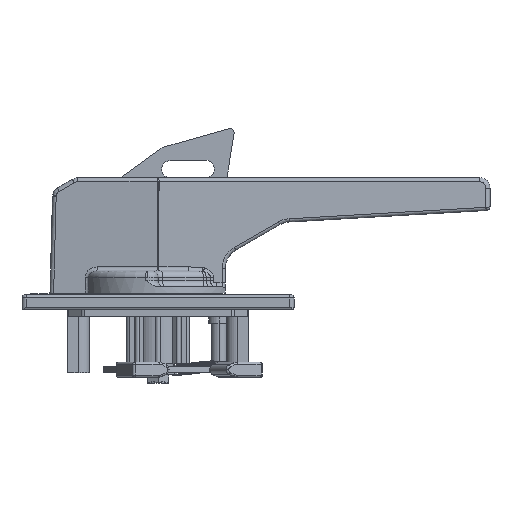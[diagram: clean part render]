
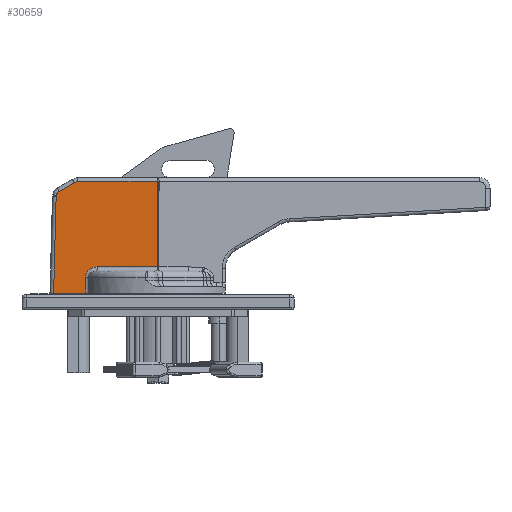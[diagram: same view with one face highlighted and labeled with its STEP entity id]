
A CAD part, front view. The second image highlights one B-rep face of the part: STEP entity #30659.
In plain terms, the highlighted planar face has unit normal (-0.131, -0.991, 0.026) as drawn and (-0.13, 0.026, 0.991) by its records, which use the part's own axes.
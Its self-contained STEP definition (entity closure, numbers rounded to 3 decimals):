
#737 = VERTEX_POINT ( 'NONE', #13957 ) ;
#738 = VERTEX_POINT ( 'NONE', #13958 ) ;
#739 = VERTEX_POINT ( 'NONE', #13959 ) ;
#741 = VERTEX_POINT ( 'NONE', #13961 ) ;
#788 = VERTEX_POINT ( 'NONE', #14008 ) ;
#790 = VERTEX_POINT ( 'NONE', #14010 ) ;
#808 = VERTEX_POINT ( 'NONE', #14028 ) ;
#842 = VERTEX_POINT ( 'NONE', #14062 ) ;
#3380 = EDGE_CURVE ( 'NONE', #5969, #5971, #36666, .T. ) ;
#3422 = EDGE_CURVE ( 'NONE', #842, #11089, #22112, .T. ) ;
#5969 = VERTEX_POINT ( 'NONE', #42685 ) ;
#5971 = VERTEX_POINT ( 'NONE', #42686 ) ;
#11089 = VERTEX_POINT ( 'NONE', #45303 ) ;
#13957 = CARTESIAN_POINT ( 'NONE',  ( -39.771, 52.5, 8.488 ) ) ;
#13958 = CARTESIAN_POINT ( 'NONE',  ( -34.538, 7.448, 10.367 ) ) ;
#13959 = CARTESIAN_POINT ( 'NONE',  ( -48.411, 45.858, 7.526 ) ) ;
#13961 = CARTESIAN_POINT ( 'NONE',  ( -28.917, 12.448, 10.975 ) ) ;
#14008 = CARTESIAN_POINT ( 'NONE',  ( -49.612, 0., 8.579 ) ) ;
#14010 = CARTESIAN_POINT ( 'NONE',  ( -34.464, 0., 10.573 ) ) ;
#14028 = CARTESIAN_POINT ( 'NONE',  ( -38.271, 52.902, 8.675 ) ) ;
#14062 = CARTESIAN_POINT ( 'NONE',  ( -0.394, 12.448, 14.73 ) ) ;
#22112 = LINE ( 'NONE', #42406, #22116 ) ;
#22116 = VECTOR ( 'NONE', #42409, 1000. ) ;
#30014 = CARTESIAN_POINT ( 'NONE',  ( -1.955, 0., 14.853 ) ) ;
#30016 = DIRECTION ( 'NONE',  ( -0.991, 0., -0.131 ) ) ;
#30611 = LINE ( 'NONE', #30014, #30616 ) ;
#30616 = VECTOR ( 'NONE', #30016, 1000. ) ;
#30659 = ADVANCED_FACE ( 'NONE', ( #47169 ), #48495, .T. ) ;
#31642 = LINE ( 'NONE', #35387, #31644 ) ;
#31644 = VECTOR ( 'NONE', #35388, 1000. ) ;
#31646 = LINE ( 'NONE', #35393, #31649 ) ;
#31649 = VECTOR ( 'NONE', #35394, 1000. ) ;
#31650 = LINE ( 'NONE', #35399, #31653 ) ;
#31653 = VECTOR ( 'NONE', #35400, 1000. ) ;
#31656 = LINE ( 'NONE', #35425, #31658 ) ;
#31658 = VECTOR ( 'NONE', #35426, 1000. ) ;
#35383 = CARTESIAN_POINT ( 'NONE',  ( -38.801, 52.902, 8.605 ) ) ;
#35384 = CARTESIAN_POINT ( 'NONE',  ( -38.271, 52.902, 8.675 ) ) ;
#35387 = CARTESIAN_POINT ( 'NONE',  ( -38.017, 52.902, 8.708 ) ) ;
#35388 = DIRECTION ( 'NONE',  ( -0.991, 0., -0.131 ) ) ;
#35389 = CARTESIAN_POINT ( 'NONE',  ( -48.387, 46.201, 7.52 ) ) ;
#35390 = CARTESIAN_POINT ( 'NONE',  ( -48.353, 46.37, 7.52 ) ) ;
#35391 = CARTESIAN_POINT ( 'NONE',  ( -39.313, 52.765, 8.541 ) ) ;
#35392 = CARTESIAN_POINT ( 'NONE',  ( -39.771, 52.5, 8.488 ) ) ;
#35393 = CARTESIAN_POINT ( 'NONE',  ( -46.753, 48.47, 7.675 ) ) ;
#35394 = DIRECTION ( 'NONE',  ( -0.862, -0.497, -0.1 ) ) ;
#35395 = CARTESIAN_POINT ( 'NONE',  ( -34.489, 2.479, 10.504 ) ) ;
#35396 = CARTESIAN_POINT ( 'NONE',  ( -34.464, 0., 10.573 ) ) ;
#35397 = CARTESIAN_POINT ( 'NONE',  ( -48.406, 46.03, 7.522 ) ) ;
#35398 = CARTESIAN_POINT ( 'NONE',  ( -48.411, 45.858, 7.526 ) ) ;
#35399 = CARTESIAN_POINT ( 'NONE',  ( -49.583, 1.103, 8.554 ) ) ;
#35400 = DIRECTION ( 'NONE',  ( -0.026, -0.999, 0.023 ) ) ;
#35401 = CARTESIAN_POINT ( 'NONE',  ( -34.541, 7.803, 10.357 ) ) ;
#35402 = CARTESIAN_POINT ( 'NONE',  ( -34.538, 7.448, 10.367 ) ) ;
#35403 = CARTESIAN_POINT ( 'NONE',  ( -34.513, 4.961, 10.436 ) ) ;
#35404 = CARTESIAN_POINT ( 'NONE',  ( -34.538, 7.448, 10.367 ) ) ;
#35407 = CARTESIAN_POINT ( 'NONE',  ( -34.503, 8.15, 10.353 ) ) ;
#35408 = CARTESIAN_POINT ( 'NONE',  ( -34.387, 8.659, 10.354 ) ) ;
#35409 = CARTESIAN_POINT ( 'NONE',  ( -34.339, 8.827, 10.356 ) ) ;
#35410 = CARTESIAN_POINT ( 'NONE',  ( -34.222, 9.159, 10.363 ) ) ;
#35411 = CARTESIAN_POINT ( 'NONE',  ( -34.153, 9.324, 10.368 ) ) ;
#35412 = CARTESIAN_POINT ( 'NONE',  ( -33.923, 9.797, 10.386 ) ) ;
#35413 = CARTESIAN_POINT ( 'NONE',  ( -33.736, 10.091, 10.402 ) ) ;
#35414 = CARTESIAN_POINT ( 'NONE',  ( -33.302, 10.637, 10.445 ) ) ;
#35415 = CARTESIAN_POINT ( 'NONE',  ( -33.052, 10.892, 10.471 ) ) ;
#35416 = CARTESIAN_POINT ( 'NONE',  ( -32.517, 11.336, 10.53 ) ) ;
#35417 = CARTESIAN_POINT ( 'NONE',  ( -32.231, 11.53, 10.563 ) ) ;
#35418 = CARTESIAN_POINT ( 'NONE',  ( -31.623, 11.865, 10.634 ) ) ;
#35419 = CARTESIAN_POINT ( 'NONE',  ( -31.298, 12.007, 10.673 ) ) ;
#35420 = CARTESIAN_POINT ( 'NONE',  ( -30.639, 12.229, 10.754 ) ) ;
#35421 = CARTESIAN_POINT ( 'NONE',  ( -30.303, 12.311, 10.796 ) ) ;
#35422 = CARTESIAN_POINT ( 'NONE',  ( -29.617, 12.42, 10.883 ) ) ;
#35423 = CARTESIAN_POINT ( 'NONE',  ( -29.267, 12.448, 10.929 ) ) ;
#35424 = CARTESIAN_POINT ( 'NONE',  ( -28.917, 12.448, 10.975 ) ) ;
#35425 = CARTESIAN_POINT ( 'NONE',  ( -1.913, 12.448, 14.53 ) ) ;
#35426 = DIRECTION ( 'NONE',  ( 0.991, 0., 0.131 ) ) ;
#36543 =( BOUNDED_CURVE ( )  B_SPLINE_CURVE ( 3, ( #35390, #35389, #35397, #35398 ),
 .UNSPECIFIED., .F., .F. ) 
 B_SPLINE_CURVE_WITH_KNOTS ( ( 4, 4 ),
 ( 0., 0.172 ),
 .UNSPECIFIED. ) 
 CURVE ( )  GEOMETRIC_REPRESENTATION_ITEM ( )  RATIONAL_B_SPLINE_CURVE ( ( 1., 0.998, 0.998, 1. ) ) 
 REPRESENTATION_ITEM ( '' )  );
#36556 =( BOUNDED_CURVE ( )  B_SPLINE_CURVE ( 3, ( #35384, #35383, #35391, #35392 ),
 .UNSPECIFIED., .F., .F. ) 
 B_SPLINE_CURVE_WITH_KNOTS ( ( 4, 4 ),
 ( 1.769, 2.292 ),
 .UNSPECIFIED. ) 
 CURVE ( )  GEOMETRIC_REPRESENTATION_ITEM ( )  RATIONAL_B_SPLINE_CURVE ( ( 1., 0.977, 0.977, 1. ) ) 
 REPRESENTATION_ITEM ( '' )  );
#36607 = B_SPLINE_CURVE_WITH_KNOTS ( 'NONE', 3,
 ( #35402, #35401, #35407, #35408, #35409, #35410, #35411, #35412, #35413, #35414, #35415, #35416, #35417, #35418, #35419, #35420, #35421, #35422, #35423, #35424 ),
 .UNSPECIFIED., .F., .F.,
 ( 4, 2, 2, 2, 2, 2, 2, 2, 2, 4 ),
 ( 0., 0.001, 0.002, 0.002, 0.003, 0.004, 0.005, 0.006, 0.007, 0.008 ),
 .UNSPECIFIED. ) ;
#36620 =( BOUNDED_CURVE ( )  B_SPLINE_CURVE ( 3, ( #35396, #35395, #35403, #35404 ),
 .UNSPECIFIED., .F., .F. ) 
 B_SPLINE_CURVE_WITH_KNOTS ( ( 4, 4 ),
 ( 1.093, 1.099 ),
 .UNSPECIFIED. ) 
 CURVE ( )  GEOMETRIC_REPRESENTATION_ITEM ( )  RATIONAL_B_SPLINE_CURVE ( ( 1., 1., 1., 1. ) ) 
 REPRESENTATION_ITEM ( '' )  );
#36666 =( BOUNDED_CURVE ( )  B_SPLINE_CURVE ( 3, ( #41463, #41459, #41458, #41464 ),
 .UNSPECIFIED., .F., .F. ) 
 B_SPLINE_CURVE_WITH_KNOTS ( ( 4, 4 ),
 ( 5.434, 6.283 ),
 .UNSPECIFIED. ) 
 CURVE ( )  GEOMETRIC_REPRESENTATION_ITEM ( )  RATIONAL_B_SPLINE_CURVE ( ( 1., 0.941, 0.941, 1. ) ) 
 REPRESENTATION_ITEM ( '' )  );
#37264 = EDGE_CURVE ( 'NONE', #790, #788, #30611, .T. ) ;
#37655 = EDGE_CURVE ( 'NONE', #11089, #808, #31642, .T. ) ;
#37656 = EDGE_CURVE ( 'NONE', #808, #737, #36556, .T. ) ;
#37657 = EDGE_CURVE ( 'NONE', #737, #5969, #31646, .T. ) ;
#37658 = EDGE_CURVE ( 'NONE', #5971, #739, #36543, .T. ) ;
#37659 = EDGE_CURVE ( 'NONE', #739, #788, #31650, .T. ) ;
#37660 = EDGE_CURVE ( 'NONE', #790, #738, #36620, .T. ) ;
#37661 = EDGE_CURVE ( 'NONE', #738, #741, #36607, .T. ) ;
#37662 = EDGE_CURVE ( 'NONE', #741, #842, #31656, .T. ) ;
#38042 = ORIENTED_EDGE ( 'NONE', *, *, #3422, .T. ) ;
#38043 = ORIENTED_EDGE ( 'NONE', *, *, #37655, .T. ) ;
#38044 = ORIENTED_EDGE ( 'NONE', *, *, #37656, .T. ) ;
#38045 = ORIENTED_EDGE ( 'NONE', *, *, #37657, .T. ) ;
#38046 = ORIENTED_EDGE ( 'NONE', *, *, #3380, .T. ) ;
#38047 = ORIENTED_EDGE ( 'NONE', *, *, #37658, .T. ) ;
#38048 = ORIENTED_EDGE ( 'NONE', *, *, #37659, .T. ) ;
#38049 = ORIENTED_EDGE ( 'NONE', *, *, #37264, .F. ) ;
#38050 = ORIENTED_EDGE ( 'NONE', *, *, #37660, .T. ) ;
#38051 = ORIENTED_EDGE ( 'NONE', *, *, #37661, .T. ) ;
#38052 = ORIENTED_EDGE ( 'NONE', *, *, #37662, .T. ) ;
#38731 = EDGE_LOOP ( 'NONE', ( #38042, #38043, #38044, #38045, #38046, #38047, #38048, #38049, #38050, #38051, #38052 ) ) ;
#41458 = CARTESIAN_POINT ( 'NONE',  ( -48.181, 47.228, 7.52 ) ) ;
#41459 = CARTESIAN_POINT ( 'NONE',  ( -47.67, 47.94, 7.568 ) ) ;
#41463 = CARTESIAN_POINT ( 'NONE',  ( -46.912, 48.378, 7.657 ) ) ;
#41464 = CARTESIAN_POINT ( 'NONE',  ( -48.353, 46.37, 7.52 ) ) ;
#42149 = AXIS2_PLACEMENT_3D ( 'NONE', #48488, #48497, #48498 ) ;
#42406 = CARTESIAN_POINT ( 'NONE',  ( -0.409, 0.003, 15.056 ) ) ;
#42409 = DIRECTION ( 'NONE',  ( 0.001, 1., -0.026 ) ) ;
#42685 = CARTESIAN_POINT ( 'NONE',  ( -46.912, 48.378, 7.657 ) ) ;
#42686 = CARTESIAN_POINT ( 'NONE',  ( -48.353, 46.37, 7.52 ) ) ;
#45303 = CARTESIAN_POINT ( 'NONE',  ( -0.342, 52.902, 13.668 ) ) ;
#47169 = FACE_OUTER_BOUND ( 'NONE', #38731, .T. ) ;
#48488 = CARTESIAN_POINT ( 'NONE',  ( -1.955, 0., 14.853 ) ) ;
#48495 = PLANE ( 'NONE',  #42149 ) ;
#48497 = DIRECTION ( 'NONE',  ( -0.13, 0.026, 0.991 ) ) ;
#48498 = DIRECTION ( 'NONE',  ( 0.991, 0., 0.131 ) ) ;
